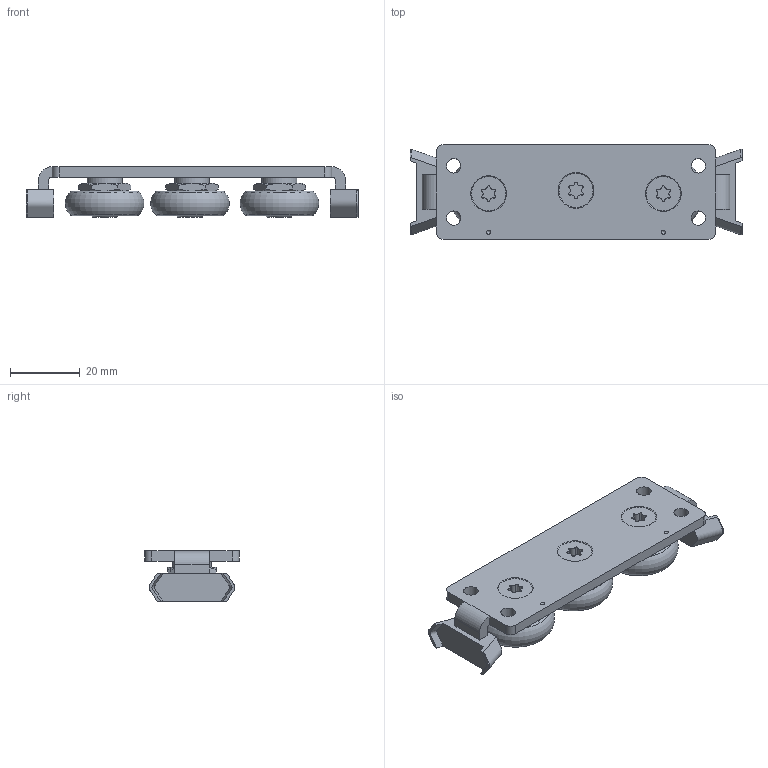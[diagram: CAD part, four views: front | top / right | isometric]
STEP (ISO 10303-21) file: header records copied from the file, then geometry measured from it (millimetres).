
FILE_DESCRIPTION(/* description */ ('STEP AP214'),/* implementation_level */ '2;1');
FILE_NAME(/* name */ 'Stainless Steel Cam Roller Carriage GN 2494-30-K3-X',/* time_stamp */ '2023-06-22T10:28:14+02:00',/* author */ ('License CC BY-ND 4.0'),/* organization */ ('CADENAS'),/* preprocessor_version */ 'ST-DEVELOPER v19.3',/* originating_system */ 'PARTsolutions',/* authorisation */ ' ');
FILE_SCHEMA (('AUTOMOTIVE_DESIGN {1 0 10303 214 3 1 1}'));
Length unit declared in the file: millimetre
Products named in the file (1): Stainless Steel Cam Roller Carriage GN 2494-30-K3-X
Bounding box: 95 x 27 x 14.5 mm (x, y, z)
Volume: 17339.6 mm3; surface area: 10438 mm2
Topology: 1 solids, 1 shells, 230 faces, 558 edges, 364 vertices
Faces by surface type: plane 102, cylinder 67, cone 44, torus 9, bspline 8
Full cylindrical faces by diameter (mm): 4.134 x4, 10 x3, 11.5 x6, 17.5 x6
Entity records: 8400 total; most frequent: CARTESIAN_POINT 1523, DIRECTION 1076, ORIENTED_EDGE 1036, EDGE_CURVE 518, AXIS2_PLACEMENT_3D 427, VERTEX_POINT 362, FACE_BOUND 310, EDGE_LOOP 308
